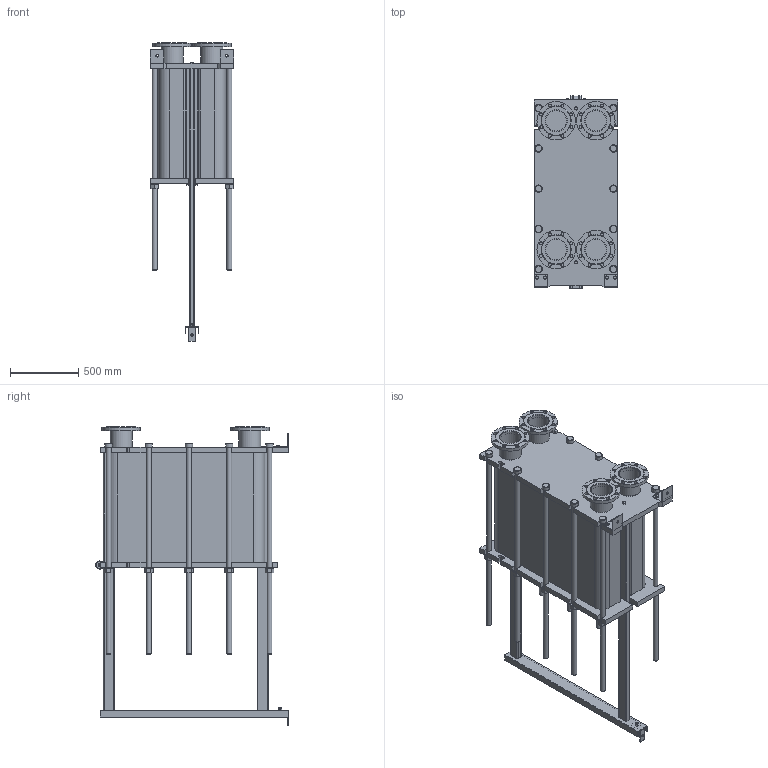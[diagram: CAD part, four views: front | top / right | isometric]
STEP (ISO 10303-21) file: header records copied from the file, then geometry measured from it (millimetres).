
FILE_DESCRIPTION(/* description */ (''),/* implementation_level */ '2;1');
FILE_NAME(/* name */ 'C:\Users\zhuro\Desktop\ENCO\TO\ЭН-041\ЭН-0,5-041-232-1.stp',/* time_stamp */ '2022-06-06T11:07:59+03:00',/* author */ ('zhuro'),/* organization */ (''),/* preprocessor_version */ 'ST-DEVELOPER v18.1',/* originating_system */ 'Autodesk Inventor 2022',/* authorisation */ '');
FILE_SCHEMA (('AUTOMOTIVE_DESIGN { 1 0 10303 214 3 1 1 }'));
Length unit declared in the file: millimetre
Products named in the file (1): ЭН-0,5-041-232-1
Bounding box: 610 x 1406.5 x 2180 mm (x, y, z)
Volume: 539923927.6 mm3; surface area: 11935002.9 mm2
Topology: 52 solids, 52 shells, 711 faces, 1696 edges, 1094 vertices
Faces by surface type: plane 487, cylinder 177, cone 41, torus 6
Full cylindrical faces by diameter (mm): 8 x4, 10 x2, 16 x8, 18 x3, 22 x32, 36 x24, 50 x1, 54 x10, 60 x12, 151 x4, 161 x8, 280 x4
Entity records: 22667 total; most frequent: CARTESIAN_POINT 5230, DIRECTION 3644, ORIENTED_EDGE 3392, EDGE_CURVE 1696, AXIS2_PLACEMENT_3D 1272, LINE 1100, VECTOR 1100, VERTEX_POINT 1094
